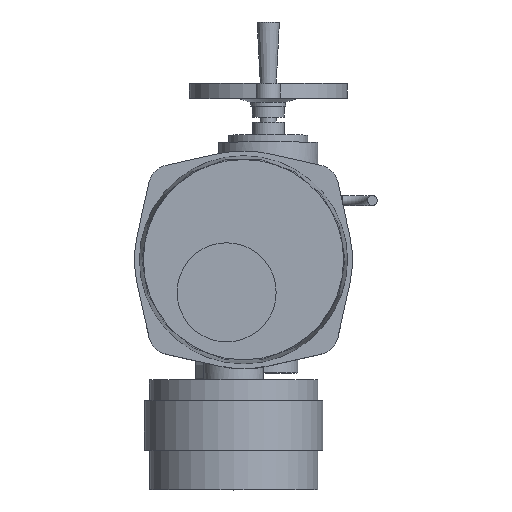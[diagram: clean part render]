
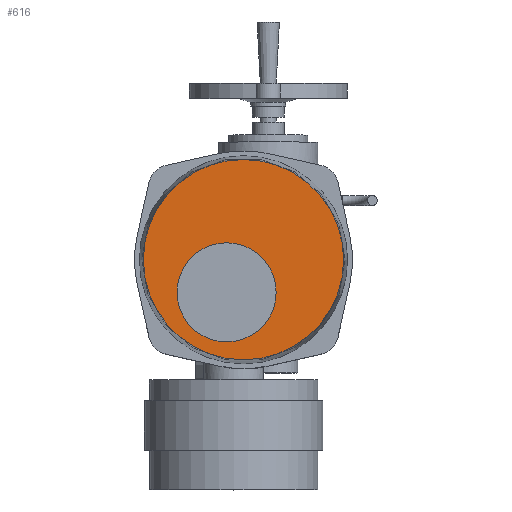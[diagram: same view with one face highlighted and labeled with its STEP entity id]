
A CAD part, top view. The second image highlights one B-rep face of the part: STEP entity #616.
In plain terms, the highlighted planar face has unit normal (0, 0, 1).
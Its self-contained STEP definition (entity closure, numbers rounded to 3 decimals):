
#616=ADVANCED_FACE('',(#8172,#8174),#8176,.T.);
#8172=FACE_BOUND('',#8173,.T.);
#8173=EDGE_LOOP('',(#14059));
#8174=FACE_BOUND('',#8175,.T.);
#8175=EDGE_LOOP('',(#14060));
#8176=PLANE('',#8177);
#8177=AXIS2_PLACEMENT_3D('',#8178,#8179,#8180);
#8178=CARTESIAN_POINT('',(20.,40.,489.));
#8179=DIRECTION('',(0.,0.,1.));
#8180=DIRECTION('',(-1.,0.,0.));
#14059=ORIENTED_EDGE('',*,*,#18684,.T.);
#14060=ORIENTED_EDGE('',*,*,#18687,.F.);
#18684=EDGE_CURVE('',#21190,#21190,#21191,.T.);
#18687=EDGE_CURVE('',#21196,#21196,#21197,.T.);
#21190=VERTEX_POINT('',#26178);
#21191=CIRCLE('',#26179,101.069);
#21196=VERTEX_POINT('',#26193);
#21197=CIRCLE('',#26194,50.);
#26178=CARTESIAN_POINT('',(-81.069,40.,489.));
#26179=AXIS2_PLACEMENT_3D('',#26180,#26181,#26182);
#26180=CARTESIAN_POINT('',(20.,40.,489.));
#26181=DIRECTION('',(0.,0.,1.));
#26182=DIRECTION('',(-1.,0.,0.));
#26193=CARTESIAN_POINT('',(-47.,7.,489.));
#26194=AXIS2_PLACEMENT_3D('',#26195,#26196,#26197);
#26195=CARTESIAN_POINT('',(3.,7.,489.));
#26196=DIRECTION('',(0.,0.,1.));
#26197=DIRECTION('',(-1.,0.,0.));
